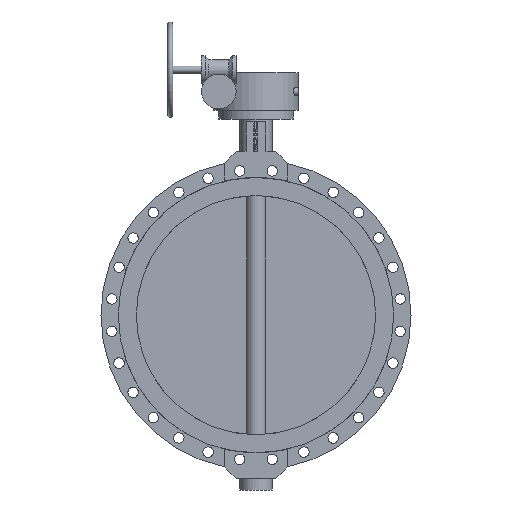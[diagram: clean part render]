
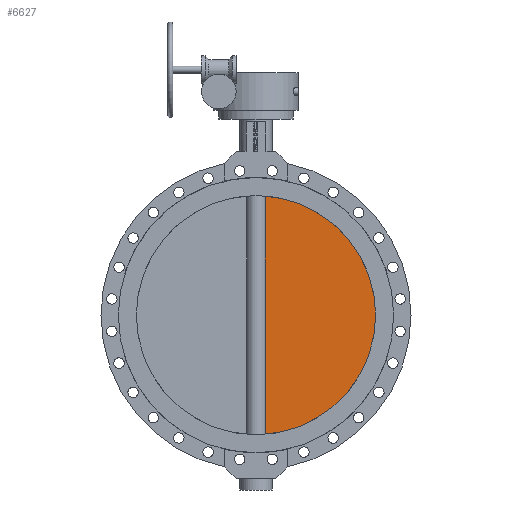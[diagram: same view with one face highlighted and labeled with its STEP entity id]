
A CAD part, left-side view. The second image highlights one B-rep face of the part: STEP entity #6627.
In plain terms, the highlighted planar face has unit normal (-1, 0, 0).
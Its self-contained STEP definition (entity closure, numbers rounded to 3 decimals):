
#6627=ADVANCED_FACE('',(#12221),#12223,.F.);
#12221=FACE_BOUND('',#12222,.T.);
#12222=EDGE_LOOP('',(#16177,#16178));
#12223=PLANE('',#12224);
#12224=AXIS2_PLACEMENT_3D('',#12225,#12226,#12227);
#12225=CARTESIAN_POINT('',(-15.,0.,0.));
#12226=DIRECTION('',(1.,0.,0.));
#12227=DIRECTION('',(0.,1.,0.));
#16177=ORIENTED_EDGE('',*,*,#18386,.T.);
#16178=ORIENTED_EDGE('',*,*,#18019,.T.);
#18019=EDGE_CURVE('',#21233,#21231,#21234,.F.);
#18386=EDGE_CURVE('',#21231,#21233,#21789,.T.);
#21231=VERTEX_POINT('',#30551);
#21233=VERTEX_POINT('',#30600);
#21234=CIRCLE('',#30601,482.5);
#21789=LINE('',#33208,#33209);
#30551=CARTESIAN_POINT('',(-15.,-37.081,481.073));
#30600=CARTESIAN_POINT('',(-15.,-37.081,-481.073));
#30601=AXIS2_PLACEMENT_3D('',#30602,#30603,#30604);
#30602=CARTESIAN_POINT('',(-15.,0.,0.));
#30603=DIRECTION('',(1.,0.,0.));
#30604=DIRECTION('',(0.,-0.077,0.997));
#33208=CARTESIAN_POINT('',(-15.,-37.081,481.073));
#33209=VECTOR('',#33210,1.);
#33210=DIRECTION('',(0.,0.,-1.));
